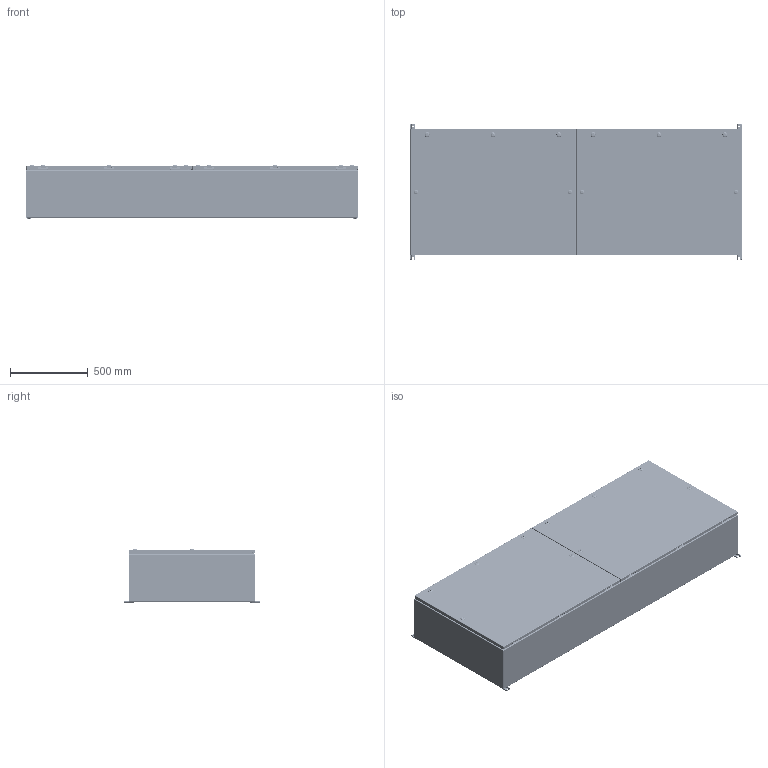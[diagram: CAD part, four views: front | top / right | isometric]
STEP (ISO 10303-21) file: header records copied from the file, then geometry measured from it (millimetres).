
FILE_DESCRIPTION(/* description */ ('1412BTCU 1600A - 4 Wires x 84" Assembly'),/* implementation_level */ '2;1');
FILE_NAME(/* name */ 'C:\Vault_Workspace\Inventor_Dwg\BoxCad\Result\1412BTCU071604\e-mail\3D\1412BTCU071604.stp',/* time_stamp */ '2022-09-19T18:08:04-04:00',/* author */ ('BoxCad'),/* organization */ (''),/* preprocessor_version */ 'ST-DEVELOPER v18.1',/* originating_system */ 'Autodesk Inventor 2020',/* authorisation */ '');
FILE_SCHEMA (('AUTOMOTIVE_DESIGN { 1 0 10303 214 3 1 1 }'));
Products named in the file (69): 1412BTCU071604; 1412BTCU071604B; 1412BTCU071604B-P; 1412BTCU071604E-P; STK-Q-16005; iLogic_STK-G-00701; STK-Q-00260; STK-Q-07220-1; STK-Q-07220-A; STK-Q-07220-B; 1412BTCU071604C; 1412BTCU071604C-P; 1412BTCU071604F-P; 1412BTCU071604G; STK-Q-16080; STK-K-09800; STK-Q-33014; STK-Q-90398; STK-Q-40095; STK-Q-63410; STK-S-00100; STK-P-02400S; STK-A-880SCQ4-SL-1; STK-A-880SCQ4-SL-2; STK-A-880SCQ4-SL-3; STK-A-880SCQ4-SL-4; STK-A-880SCQ4-SL-5; STK-A-880SCQ4-SL-6; STK-Q-78140; STK-A-880SCQ4-SL-7; STK-A-880SCQ4-SL-8; STK-A-880SCQ4-SL-9; STK-A-880SCQ4-SL-10; STK-Q-78110; STK-Q-78120; STK-Q-78145; STK-Q-03200; STK-Q-78125; STK-Q-78141; STK-Q-90390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
Assembly tree (232 placements, depth 4):
  1412BTCU071604
    1412BTCU071604B
      1412BTCU071604B-P
      1412BTCU071604E-P
      STK-Q-16080  x2
      STK-Q-16005  x10
      iLogic_STK-G-00701
      STK-Q-00260  x10
      STK-Q-07220-1  x10
        STK-Q-07220-A
        STK-Q-07220-B
      STK-S-00100
      STK-P-02400S
    1412BTCU071604C
      1412BTCU071604C-P
      1412BTCU071604F-P
      1412BTCU071604G  x2
      STK-Q-16080  x2
      STK-K-09800  x6
        STK-Q-33014
        STK-Q-90398
        STK-Q-40095
        STK-Q-63410
      STK-S-00100
      STK-P-02400S
      STK-A-880SCQ4-SL-1
        STK-Q-78110
        STK-Q-78120
        STK-Q-78145
        STK-Q-03200
        STK-Q-78125
        STK-Q-78141
        STK-Q-90390
        STK-Q-78160
      STK-A-880SCQ4-SL-2
        STK-Q-78110
        STK-Q-78120
        STK-Q-78145
        STK-Q-03200
        STK-Q-78125
        STK-Q-78141
        STK-Q-90390
        STK-Q-78160
      STK-A-880SCQ4-SL-3
        STK-Q-78110
        STK-Q-78120
        STK-Q-78145
        STK-Q-03200
        STK-Q-78125
        STK-Q-78141
        STK-Q-90390
        STK-Q-78160
      STK-A-880SCQ4-SL-4
        STK-Q-78110
        STK-Q-78120
        STK-Q-78145
        STK-Q-03200
        STK-Q-78125
        STK-Q-78141
        STK-Q-90390
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Bounding box: 2133.6 x 869.95 x 345 mm (x, y, z)
Volume: 21238466.8 mm3; surface area: 15544267.6 mm2
Topology: 314 solids, 314 shells, 43565 faces, 113424 edges, 70454 vertices
Faces by surface type: plane 16281, bspline 11556, cylinder 10759, torus 3271, sphere 1010, cone 688
Full cylindrical faces by diameter (mm): 0.75 x14, 0.762 x14, 1 x24, 1.1 x24, 3.2 x12, 4.5 x48, 4.521 x24, 4.85 x48, 4.95 x12, 5 x10, 5.1 x146, 5.6 x6, 5.9 x266, 6.65 x22, 6.8 x10, 6.85 x80, 7.3 x6, 7.366 x8, 7.8 x492, 7.9 x10, 8 x56, 8.25 x24, 8.382 x6, 8.6 x12, 9.5 x10, 9.6 x10, 9.7 x48, 9.906 x4, 10 x10, 10.312 x2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
Entity records: 225822 total; most frequent: CARTESIAN_POINT 86455, ORIENTED_EDGE 30354, DIRECTION 25488, EDGE_CURVE 15177, VERTEX_POINT 9637, AXIS2_PLACEMENT_3D 8876, LINE 7736, VECTOR 7736
